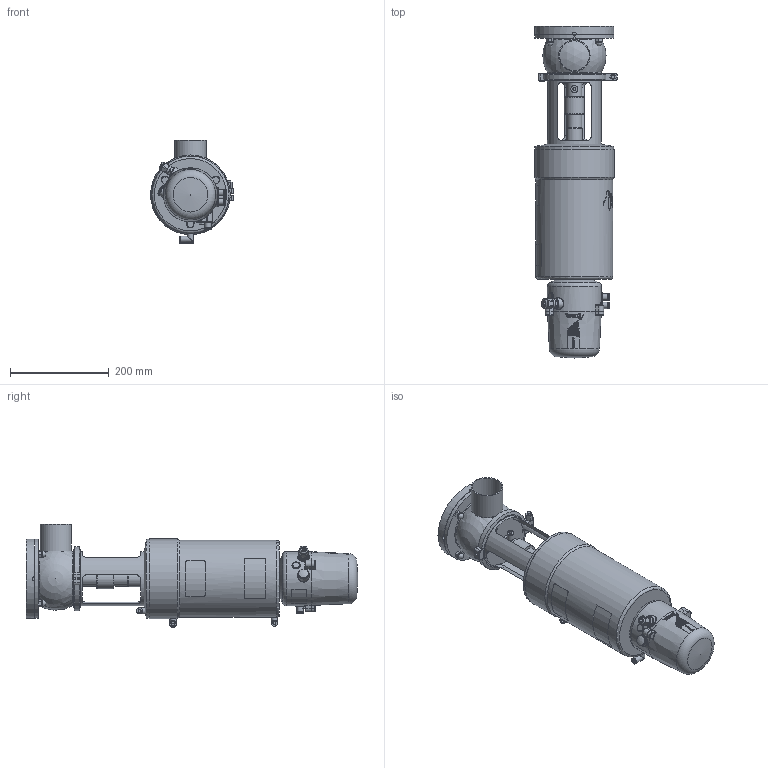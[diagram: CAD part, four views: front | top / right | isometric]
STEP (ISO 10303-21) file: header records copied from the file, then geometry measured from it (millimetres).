
FILE_DESCRIPTION (( 'STEP AP214' ), '1' );
FILE_NAME ('INNOVA T L W OD 2½ WITH FLANGE & C-TOP S_10.252.16.0007.STEP', '2024-08-20T12:56:14', ( '' ), ( '' ), 'SwSTEP 2.0', 'SolidWorks 2023', '' );
FILE_SCHEMA (( 'AUTOMOTIVE_DESIGN' ));
Length unit declared in the file: millimetre
Products named in the file (7): 10.250.15.0002_Type T T2; 10.240.15.0006_OD 2½"; INNOVA T L W OD 2½ WITH FLANGE & C-TOP S_10.252.16.0007; 10.240.15.0001_DN 065; 10.426.15.0001_C-TOP S - 3 EV; 10.248.15.0003_DIN 065 _ OD 2½"; 10.252.15.0001_OD 2½"
Assembly tree (6 placements, depth 2):
  INNOVA T L W OD 2½ WITH FLANGE & C-TOP S_10.252.16.0007
    10.240.15.0006_OD 2½"
    10.248.15.0003_DIN 065 _ OD 2½"
    10.252.15.0001_OD 2½"
    10.250.15.0002_Type T T2
    10.240.15.0001_DN 065
    10.426.15.0001_C-TOP S - 3 EV
Bounding box: 167.5 x 671.13 x 209 mm (x, y, z)
Volume: 8417358.8 mm3; surface area: 543600 mm2
Topology: 6 solids, 6 shells, 1196 faces, 2879 edges, 1916 vertices
Faces by surface type: plane 416, cylinder 379, cone 196, bspline 162, torus 33, sphere 10
Full cylindrical faces by diameter (mm): 0.371 x17, 0.512 x16, 0.658 x16, 0.795 x16, 0.94 x15, 1.098 x15, 1.241 x13, 1.382 x13, 1.523 x11, 1.669 x10, 2.201 x1, 4.2 x2, 5 x1, 5.5 x2, 6 x5, 6.15 x3, 8 x3, 10 x1, 10.5 x3, 11 x4, 12 x1, 12.5 x13, 13 x6, 13.5 x2, 14 x2, 17 x3, 20 x2, 22 x2, 30.5 x2, 32 x1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
Entity records: 61482 total; most frequent: CARTESIAN_POINT 29299, ORIENTED_EDGE 4862, DIRECTION 3999, EDGE_CURVE 2431, VERTEX_POINT 1731, EDGE_LOOP 1690, AXIS2_PLACEMENT_3D 1619, FACE_OUTER_BOUND 1428
